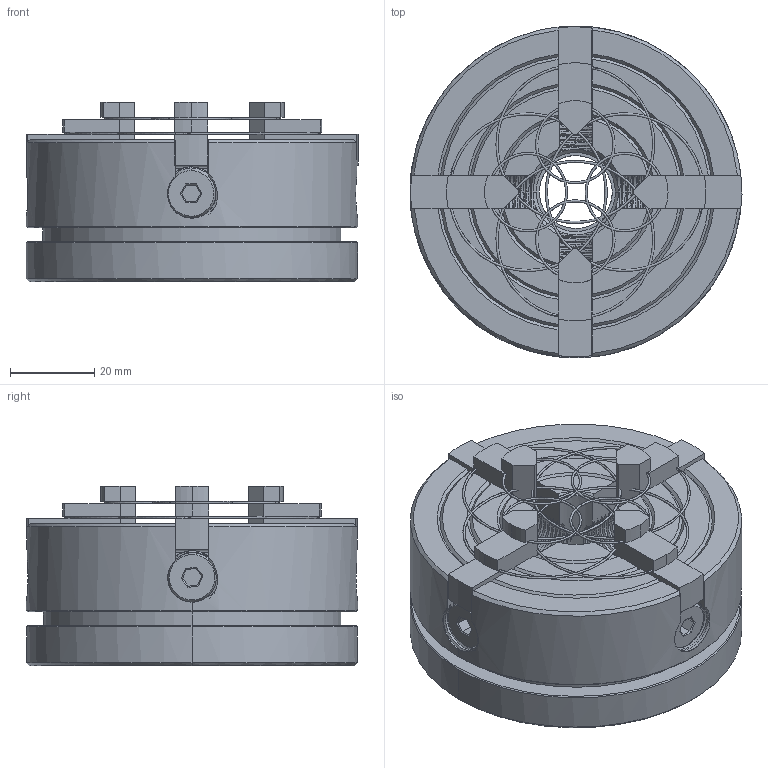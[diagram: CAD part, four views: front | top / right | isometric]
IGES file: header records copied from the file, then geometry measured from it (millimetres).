
Start section: Comment
Global section: file name: 10301 4jaw indp chuck.igs; native system:  By Spatial Corp.; preprocessor: XPlus PS/IGES 3.0; author: sherline; organization: Title; date: 20210512.164209; units: inch
Bounding box: 78.9 x 78.79 x 42.68 mm (x, y, z)
Volume: 146861.4 mm3; surface area: 41094.5 mm2
Topology: 9 solids, 9 shells, 823 faces, 2394 edges, 1568 vertices
Faces by surface type: cylinder 352, bspline 224, plane 149, cone 66, torus 32
